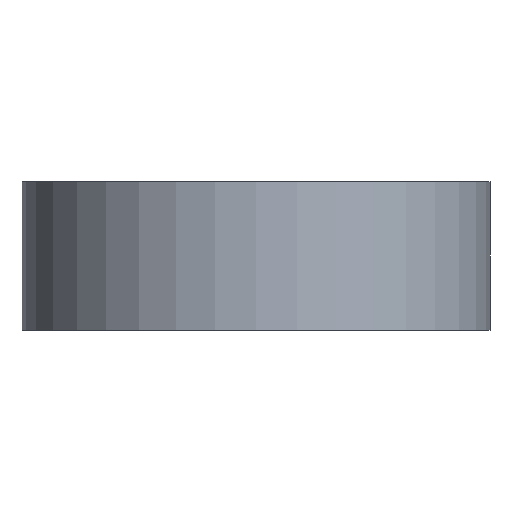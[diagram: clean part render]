
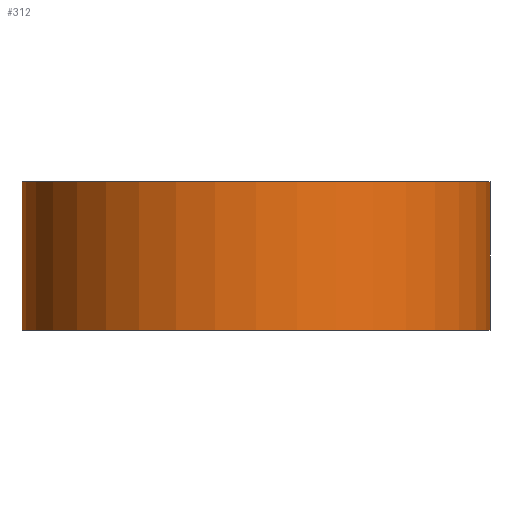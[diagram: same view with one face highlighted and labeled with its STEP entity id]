
A CAD part, front view. The second image highlights one B-rep face of the part: STEP entity #312.
In plain terms, the highlighted cylindrical face has radius 11 mm (diameter 22 mm), a partial arc.
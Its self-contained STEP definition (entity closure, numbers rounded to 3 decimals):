
#3=CARTESIAN_POINT('',(11.0,0.0,138.0));
#4=CARTESIAN_POINT('',(-11.0,0.0,138.0));
#5=CARTESIAN_POINT('',(11.0,0.0,145.0));
#6=CARTESIAN_POINT('',(-11.0,0.0,145.0));
#33=CARTESIAN_POINT('',(0.0,0.0,138.0));
#34=DIRECTION('',(0.0,0.0,1.0));
#35=DIRECTION('',(1.0,0.0,0.0));
#36=AXIS2_PLACEMENT_3D('',#33,#34,#35);
#37=CIRCLE('',#36,11.0);
#38=TRIMMED_CURVE('',#37,(#4),(#3),.T.,.CARTESIAN.);
#45=CARTESIAN_POINT('',(0.0,0.0,145.0));
#46=DIRECTION('',(0.0,0.0,1.0));
#47=DIRECTION('',(1.0,0.0,0.0));
#48=AXIS2_PLACEMENT_3D('',#45,#46,#47);
#49=CIRCLE('',#48,11.0);
#50=TRIMMED_CURVE('',#49,(#6),(#5),.T.,.CARTESIAN.);
#93=DIRECTION('',(0.0,0.0,1.0));
#94=VECTOR('',#93,1.0);
#95=LINE('',#3,#94);
#96=DIRECTION('',(0.0,0.0,1.0));
#97=VECTOR('',#96,1.0);
#98=LINE('',#4,#97);
#148=CARTESIAN_POINT('',(0.0,0.0,138.0));
#149=DIRECTION('',(0.0,0.0,1.0));
#150=DIRECTION('',(0.0,-1.0,0.0));
#151=AXIS2_PLACEMENT_3D('',#148,#149,#150);
#152=CYLINDRICAL_SURFACE('',#151,11.0);
#195=VERTEX_POINT('',#3);
#196=VERTEX_POINT('',#4);
#197=VERTEX_POINT('',#5);
#198=VERTEX_POINT('',#6);
#210=EDGE_CURVE('',#196,#195,#38,.T.);
#212=EDGE_CURVE('',#198,#197,#50,.T.);
#221=EDGE_CURVE('',#195,#197,#95,.T.);
#222=EDGE_CURVE('',#196,#198,#98,.T.);
#245=ORIENTED_EDGE('',*,*,#210,.T.);
#246=ORIENTED_EDGE('',*,*,#221,.T.);
#247=ORIENTED_EDGE('',*,*,#212,.F.);
#248=ORIENTED_EDGE('',*,*,#222,.F.);
#288=EDGE_LOOP('',(#245,#246,#247,#248));
#300=FACE_OUTER_BOUND('',#288,.T.);
#312=ADVANCED_FACE('',(#300),#152,.T.);
